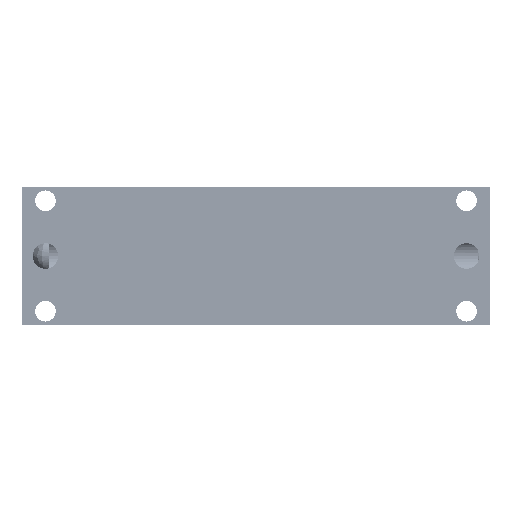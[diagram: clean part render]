
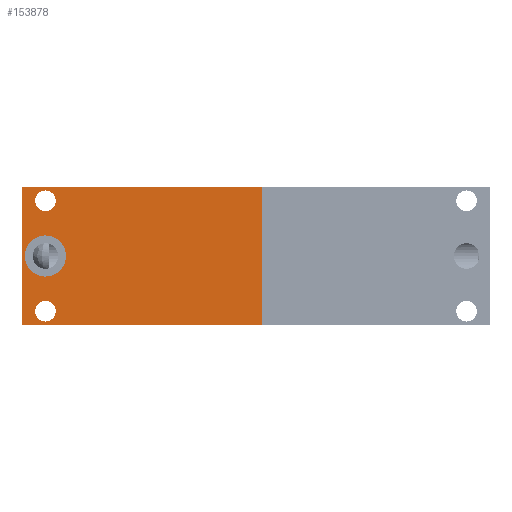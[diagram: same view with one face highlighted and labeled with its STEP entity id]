
A CAD part, front view. The second image highlights one B-rep face of the part: STEP entity #153878.
In plain terms, the highlighted planar face has unit normal (0, -1, 0) as drawn and (0, 0, -1) by its records, which use the part's own axes.
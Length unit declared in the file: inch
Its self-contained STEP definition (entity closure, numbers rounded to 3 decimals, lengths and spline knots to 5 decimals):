
#2859 = LINE ( 'NONE', #142776, #210344 ) ;
#4556 = CARTESIAN_POINT ( 'NONE',  ( 0., 1.2845, 0. ) ) ;
#12422 = FACE_OUTER_BOUND ( 'NONE', #54440, .T. ) ;
#12644 = CARTESIAN_POINT ( 'NONE',  ( 1.44, 0.25, 0. ) ) ;
#17109 = VERTEX_POINT ( 'NONE', #237175 ) ;
#20158 = CARTESIAN_POINT ( 'NONE',  ( 0.15, 0.25, 0. ) ) ;
#20360 = CARTESIAN_POINT ( 'NONE',  ( 1.48, 0., 0. ) ) ;
#25071 = EDGE_CURVE ( 'NONE', #168502, #49056, #87388, .T. ) ;
#27835 = CIRCLE ( 'NONE', #285086, 0.11 ) ;
#28707 = DIRECTION ( 'NONE',  ( -1., 0., 0. ) ) ;
#29425 = CIRCLE ( 'NONE', #263233, 0.11 ) ;
#30455 = VECTOR ( 'NONE', #297381, 39.37008 ) ;
#30587 = EDGE_LOOP ( 'NONE', ( #63468, #108104 ) ) ;
#34228 = CARTESIAN_POINT ( 'NONE',  ( 1.48, 2.569, 0. ) ) ;
#37821 = EDGE_CURVE ( 'NONE', #84244, #17109, #95306, .T. ) ;
#48732 = AXIS2_PLACEMENT_3D ( 'NONE', #167809, #140472, #97840 ) ;
#49056 = VERTEX_POINT ( 'NONE', #208212 ) ;
#49743 = EDGE_CURVE ( 'NONE', #143437, #91047, #142957, .T. ) ;
#50469 = ORIENTED_EDGE ( 'NONE', *, *, #49743, .T. ) ;
#54440 = EDGE_LOOP ( 'NONE', ( #50469, #125330, #57243, #106509 ) ) ;
#57243 = ORIENTED_EDGE ( 'NONE', *, *, #58958, .F. ) ;
#58958 = EDGE_CURVE ( 'NONE', #209215, #246674, #139069, .T. ) ;
#62532 = PLANE ( 'NONE',  #158156 ) ;
#63468 = ORIENTED_EDGE ( 'NONE', *, *, #184948, .T. ) ;
#64647 = CARTESIAN_POINT ( 'NONE',  ( 1.48, 1.2845, 0. ) ) ;
#65259 = VERTEX_POINT ( 'NONE', #106882 ) ;
#65495 = CARTESIAN_POINT ( 'NONE',  ( 0.74, 1.2845, 0. ) ) ;
#75749 = CARTESIAN_POINT ( 'NONE',  ( 0.04, 0.25, 0. ) ) ;
#78026 = EDGE_LOOP ( 'NONE', ( #110694, #298012 ) ) ;
#84244 = VERTEX_POINT ( 'NONE', #181358 ) ;
#84496 = EDGE_LOOP ( 'NONE', ( #246216, #255631 ) ) ;
#87388 = CIRCLE ( 'NONE', #223406, 0.11 ) ;
#89803 = DIRECTION ( 'NONE',  ( -1., 0., 0. ) ) ;
#91047 = VERTEX_POINT ( 'NONE', #259027 ) ;
#95306 = CIRCLE ( 'NONE', #124625, 0.22 ) ;
#97840 = DIRECTION ( 'NONE',  ( -1., 0., 0. ) ) ;
#99834 = EDGE_CURVE ( 'NONE', #17109, #84244, #296515, .T. ) ;
#100616 = CARTESIAN_POINT ( 'NONE',  ( 0.74, 2.569, 0. ) ) ;
#105097 = LINE ( 'NONE', #100616, #283610 ) ;
#106509 = ORIENTED_EDGE ( 'NONE', *, *, #263866, .T. ) ;
#106882 = CARTESIAN_POINT ( 'NONE',  ( 0.26, 0.25, 0. ) ) ;
#108104 = ORIENTED_EDGE ( 'NONE', *, *, #215115, .T. ) ;
#110694 = ORIENTED_EDGE ( 'NONE', *, *, #25071, .T. ) ;
#124625 = AXIS2_PLACEMENT_3D ( 'NONE', #194547, #287343, #264483 ) ;
#125330 = ORIENTED_EDGE ( 'NONE', *, *, #289868, .F. ) ;
#125606 = DIRECTION ( 'NONE',  ( 0., 0., 1. ) ) ;
#127266 = DIRECTION ( 'NONE',  ( 1., 0., 0. ) ) ;
#127988 = FACE_BOUND ( 'NONE', #78026, .T. ) ;
#139069 = LINE ( 'NONE', #64647, #30455 ) ;
#140472 = DIRECTION ( 'NONE',  ( 0., 0., -1. ) ) ;
#142776 = CARTESIAN_POINT ( 'NONE',  ( 0.74, 0., 0. ) ) ;
#142957 = LINE ( 'NONE', #4556, #218924 ) ;
#143437 = VERTEX_POINT ( 'NONE', #272839 ) ;
#146274 = DIRECTION ( 'NONE',  ( -1., 0., 0. ) ) ;
#148678 = EDGE_CURVE ( 'NONE', #49056, #168502, #240290, .T. ) ;
#153878 = ADVANCED_FACE ( 'NONE', ( #266405, #127988, #220832, #12422 ), #62532, .T. ) ;
#158156 = AXIS2_PLACEMENT_3D ( 'NONE', #65495, #272410, #89803 ) ;
#161553 = DIRECTION ( 'NONE',  ( 0., 0., 1. ) ) ;
#167809 = CARTESIAN_POINT ( 'NONE',  ( 0.74, 0.25, 0. ) ) ;
#168502 = VERTEX_POINT ( 'NONE', #12644 ) ;
#181358 = CARTESIAN_POINT ( 'NONE',  ( 0.96, 0.25, 0. ) ) ;
#184342 = DIRECTION ( 'NONE',  ( 1., 0., 0. ) ) ;
#184948 = EDGE_CURVE ( 'NONE', #65259, #260296, #27835, .T. ) ;
#194547 = CARTESIAN_POINT ( 'NONE',  ( 0.74, 0.25, 0. ) ) ;
#199554 = DIRECTION ( 'NONE',  ( 0., 0., 1. ) ) ;
#208212 = CARTESIAN_POINT ( 'NONE',  ( 1.22, 0.25, 0. ) ) ;
#209215 = VERTEX_POINT ( 'NONE', #20360 ) ;
#210344 = VECTOR ( 'NONE', #28707, 39.37008 ) ;
#215115 = EDGE_CURVE ( 'NONE', #260296, #65259, #29425, .T. ) ;
#218924 = VECTOR ( 'NONE', #282905, 39.37008 ) ;
#219420 = CARTESIAN_POINT ( 'NONE',  ( 1.33, 0.25, 0. ) ) ;
#220832 = FACE_BOUND ( 'NONE', #30587, .T. ) ;
#223406 = AXIS2_PLACEMENT_3D ( 'NONE', #284036, #259707, #127266 ) ;
#237175 = CARTESIAN_POINT ( 'NONE',  ( 0.52, 0.25, 0. ) ) ;
#240290 = CIRCLE ( 'NONE', #264541, 0.11 ) ;
#246216 = ORIENTED_EDGE ( 'NONE', *, *, #99834, .F. ) ;
#246674 = VERTEX_POINT ( 'NONE', #34228 ) ;
#255631 = ORIENTED_EDGE ( 'NONE', *, *, #37821, .F. ) ;
#259027 = CARTESIAN_POINT ( 'NONE',  ( 0., 2.569, 0. ) ) ;
#259707 = DIRECTION ( 'NONE',  ( 0., 0., 1. ) ) ;
#260296 = VERTEX_POINT ( 'NONE', #75749 ) ;
#263233 = AXIS2_PLACEMENT_3D ( 'NONE', #20158, #161553, #184342 ) ;
#263866 = EDGE_CURVE ( 'NONE', #209215, #143437, #2859, .T. ) ;
#264039 = CARTESIAN_POINT ( 'NONE',  ( 0.15, 0.25, 0. ) ) ;
#264483 = DIRECTION ( 'NONE',  ( -1., 0., 0. ) ) ;
#264541 = AXIS2_PLACEMENT_3D ( 'NONE', #219420, #199554, #292340 ) ;
#266405 = FACE_BOUND ( 'NONE', #84496, .T. ) ;
#272410 = DIRECTION ( 'NONE',  ( 0., 0., -1. ) ) ;
#272839 = CARTESIAN_POINT ( 'NONE',  ( 0., 0., 0. ) ) ;
#282905 = DIRECTION ( 'NONE',  ( 0., 1., 0. ) ) ;
#283610 = VECTOR ( 'NONE', #146274, 39.37008 ) ;
#284036 = CARTESIAN_POINT ( 'NONE',  ( 1.33, 0.25, 0. ) ) ;
#285086 = AXIS2_PLACEMENT_3D ( 'NONE', #264039, #125606, #285378 ) ;
#285378 = DIRECTION ( 'NONE',  ( 1., 0., 0. ) ) ;
#287343 = DIRECTION ( 'NONE',  ( 0., 0., -1. ) ) ;
#289868 = EDGE_CURVE ( 'NONE', #246674, #91047, #105097, .T. ) ;
#292340 = DIRECTION ( 'NONE',  ( 1., 0., 0. ) ) ;
#296515 = CIRCLE ( 'NONE', #48732, 0.22 ) ;
#297381 = DIRECTION ( 'NONE',  ( 0., 1., 0. ) ) ;
#298012 = ORIENTED_EDGE ( 'NONE', *, *, #148678, .T. ) ;
